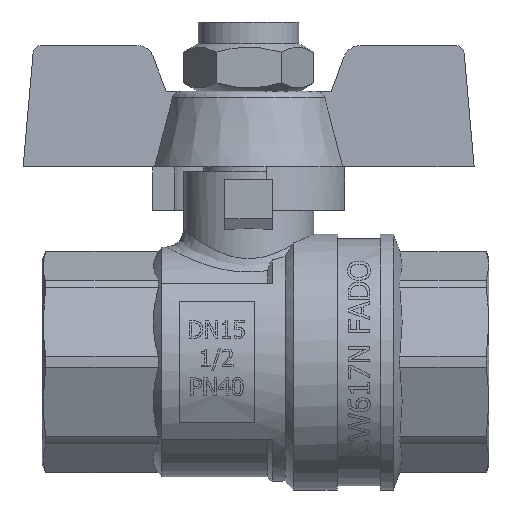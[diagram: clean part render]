
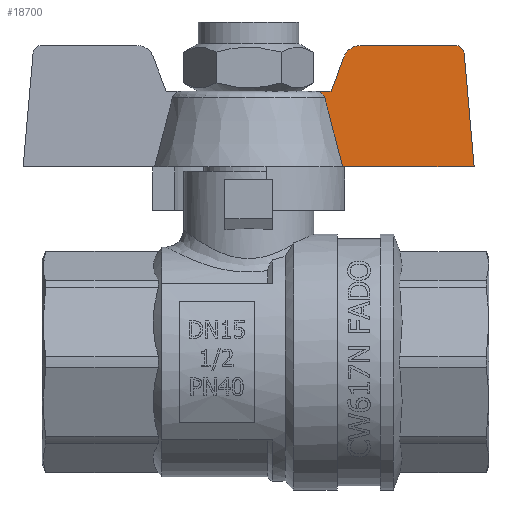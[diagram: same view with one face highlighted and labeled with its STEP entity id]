
A CAD part, top view. The second image highlights one B-rep face of the part: STEP entity #18700.
In plain terms, the highlighted planar face has unit normal (0, 0.035, 0.999) as drawn and (0.999, 0.035, 0) by its records, which use the part's own axes.
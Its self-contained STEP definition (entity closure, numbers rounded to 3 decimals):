
#151=(
BOUNDED_CURVE()
B_SPLINE_CURVE(2,(#50971,#50972,#50973),.UNSPECIFIED.,.F.,.F.)
B_SPLINE_CURVE_WITH_KNOTS((3,3),(13.539,16.56),
 .UNSPECIFIED.)
CURVE()
GEOMETRIC_REPRESENTATION_ITEM()
RATIONAL_B_SPLINE_CURVE((22.096,24.294,26.423))
REPRESENTATION_ITEM('')
);
#1140=B_SPLINE_CURVE_WITH_KNOTS('',3,(#50961,#50962,#50963,#50964,#50965,
#50966,#50967,#50968,#50969,#50970),.UNSPECIFIED.,.F.,.F.,(4,2,2,2,4),(0.024,
0.036,0.074,0.112,0.152),
 .UNSPECIFIED.);
#1989=PLANE('',#20158);
#2930=FACE_OUTER_BOUND('',#4047,.T.);
#4047=EDGE_LOOP('',(#16773,#16774,#16775,#16776,#16777,#16778,#16779,#16780,
#16781));
#4350=ELLIPSE('',#20159,1.001,1.);
#4351=ELLIPSE('',#20160,2.001,2.);
#5907=LINE('',#50849,#7004);
#5929=LINE('',#50975,#7026);
#5930=LINE('',#50979,#7027);
#5931=LINE('',#50983,#7028);
#5932=LINE('',#50984,#7029);
#7004=VECTOR('',#23667,10.);
#7026=VECTOR('',#23723,10.);
#7027=VECTOR('',#23726,10.);
#7028=VECTOR('',#23729,10.);
#7029=VECTOR('',#23730,10.);
#8765=VERTEX_POINT('',#50846);
#8766=VERTEX_POINT('',#50848);
#8797=VERTEX_POINT('',#50959);
#8798=VERTEX_POINT('',#50960);
#8799=VERTEX_POINT('',#50974);
#8800=VERTEX_POINT('',#50976);
#8801=VERTEX_POINT('',#50978);
#8802=VERTEX_POINT('',#50980);
#8803=VERTEX_POINT('',#50982);
#11471=EDGE_CURVE('',#8766,#8765,#5907,.F.);
#11508=EDGE_CURVE('',#8797,#8798,#1140,.T.);
#11509=EDGE_CURVE('',#8766,#8797,#151,.T.);
#11510=EDGE_CURVE('',#8765,#8799,#5929,.T.);
#11511=EDGE_CURVE('',#8799,#8800,#4350,.T.);
#11512=EDGE_CURVE('',#8800,#8801,#5930,.T.);
#11513=EDGE_CURVE('',#8801,#8802,#4351,.T.);
#11514=EDGE_CURVE('',#8802,#8803,#5931,.T.);
#11515=EDGE_CURVE('',#8803,#8798,#5932,.T.);
#16773=ORIENTED_EDGE('',*,*,#11508,.F.);
#16774=ORIENTED_EDGE('',*,*,#11509,.F.);
#16775=ORIENTED_EDGE('',*,*,#11471,.T.);
#16776=ORIENTED_EDGE('',*,*,#11510,.T.);
#16777=ORIENTED_EDGE('',*,*,#11511,.T.);
#16778=ORIENTED_EDGE('',*,*,#11512,.T.);
#16779=ORIENTED_EDGE('',*,*,#11513,.T.);
#16780=ORIENTED_EDGE('',*,*,#11514,.T.);
#16781=ORIENTED_EDGE('',*,*,#11515,.T.);
#18700=ADVANCED_FACE('',(#2930),#1989,.T.);
#20158=AXIS2_PLACEMENT_3D('',#50958,#23721,#23722);
#20159=AXIS2_PLACEMENT_3D('',#50977,#23724,#23725);
#20160=AXIS2_PLACEMENT_3D('',#50981,#23727,#23728);
#23667=DIRECTION('',(0.,0.,1.));
#23721=DIRECTION('center_axis',(0.999,0.035,0.));
#23722=DIRECTION('ref_axis',(0.,0.,-1.));
#23723=DIRECTION('',(-0.035,0.996,0.087));
#23724=DIRECTION('center_axis',(0.999,0.035,0.));
#23725=DIRECTION('ref_axis',(-0.035,0.999,0.));
#23726=DIRECTION('',(0.,0.,1.));
#23727=DIRECTION('center_axis',(0.999,0.035,0.));
#23728=DIRECTION('ref_axis',(-0.035,0.999,0.));
#23729=DIRECTION('',(0.033,-0.935,0.353));
#23730=DIRECTION('',(0.,0.,1.));
#50846=CARTESIAN_POINT('',(2.999,0.,-26.));
#50848=CARTESIAN_POINT('',(2.999,0.,-10.843));
#50849=CARTESIAN_POINT('',(2.999,0.,0.));
#50958=CARTESIAN_POINT('Origin',(2.754,7.001,0.));
#50959=CARTESIAN_POINT('',(2.721,7.95,-8.782));
#50960=CARTESIAN_POINT('',(2.695,8.7,-7.772));
#50961=CARTESIAN_POINT('Ctrl Pts',(2.721,7.95,-8.782));
#50962=CARTESIAN_POINT('Ctrl Pts',(2.72,7.995,-8.77));
#50963=CARTESIAN_POINT('Ctrl Pts',(2.718,8.038,-8.756));
#50964=CARTESIAN_POINT('Ctrl Pts',(2.713,8.191,-8.692));
#50965=CARTESIAN_POINT('Ctrl Pts',(2.708,8.314,-8.609));
#50966=CARTESIAN_POINT('Ctrl Pts',(2.702,8.49,-8.43));
#50967=CARTESIAN_POINT('Ctrl Pts',(2.699,8.573,-8.301));
#50968=CARTESIAN_POINT('Ctrl Pts',(2.696,8.67,-8.06));
#50969=CARTESIAN_POINT('Ctrl Pts',(2.695,8.7,-7.904));
#50970=CARTESIAN_POINT('Ctrl Pts',(2.695,8.7,-7.772));
#50971=CARTESIAN_POINT('Ctrl Pts',(2.999,0.,
-10.843));
#50972=CARTESIAN_POINT('Ctrl Pts',(2.845,4.393,-9.707));
#50973=CARTESIAN_POINT('Ctrl Pts',(2.721,7.95,-8.782));
#50974=CARTESIAN_POINT('',(2.542,13.087,-24.855));
#50975=CARTESIAN_POINT('',(2.836,4.653,-25.593));
#50976=CARTESIAN_POINT('',(2.51,14.,-23.859));
#50977=CARTESIAN_POINT('Origin',(2.545,13.,-23.859));
#50978=CARTESIAN_POINT('',(2.51,14.,-12.883));
#50979=CARTESIAN_POINT('',(2.51,14.,-11.929));
#50980=CARTESIAN_POINT('',(2.555,12.706,-11.012));
#50981=CARTESIAN_POINT('Origin',(2.58,12.,-12.883));
#50982=CARTESIAN_POINT('',(2.695,8.7,-9.5));
#50983=CARTESIAN_POINT('',(2.704,8.431,-9.398));
#50984=CARTESIAN_POINT('',(2.695,8.7,-9.5));
